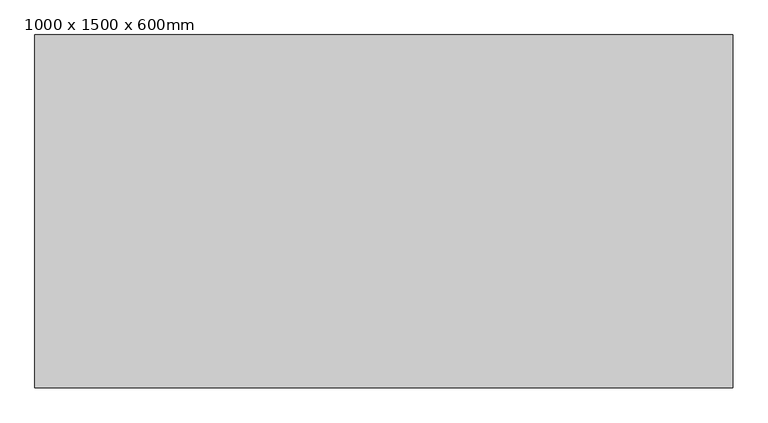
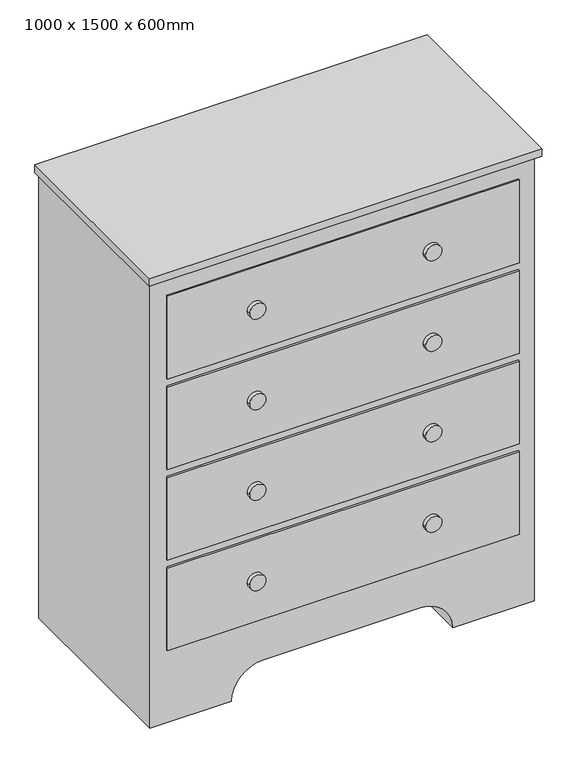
"""IFC4 building model written with IfcOpenShell, lengths in millimetres: furniture geometry, Skrin : 1000 x 1500 x 600mm."""

from ifc_helpers import new_model, si_unit, point, frame, frame_2d, origin, place, context, project, spatial, polyline, circle_curve, trimmed, segment, composite_curve, outline, extrude, source, transform, mapped, element, save


def furniture_1000_x_1500_x_600mm_3ddbdefd(model_context):
    return source(origin(), model_context, "Body", "SweptSolid", [
        extrude(outline(polyline([(343.5067402, -63.1629541), (343.5067402, -682.2129541), (-881.8932598, -682.2129541), (-881.8932598, -63.1629541), (343.5067402, -63.1629541)])), frame((0.0, 0.0, 1474.6), z_axis=(0.0, 0.0, 1.0), x_axis=(1.0, 0.0, 0.0)), (0.0, 0.0, 1.0), 25.4),
        extrude(outline(composite_curve([segment(polyline([(0.0, 330.8067402), (1474.6, 330.8067402), (1474.6, -869.1932598), (0.0, -869.1932598), (0.0, -615.1932598)]), True, "CONTINUOUS"), segment(trimmed(circle_curve(frame_2d((0.0, -513.5932598)), 101.6), [point((0.0, -615.1932598))], [point((101.6, -513.5932598))], True, "CARTESIAN"), True, "CONTINUOUS"), segment(polyline([(101.6, -513.5932598), (101.6, -24.7932598)]), True, "CONTINUOUS"), segment(trimmed(circle_curve(frame_2d((0.0, -24.7932598)), 101.6), [point((101.6, -24.7932598))], [point((0.0, 76.8067402))], True, "CARTESIAN"), True, "CONTINUOUS"), segment(polyline([(0.0, 76.8067402), (0.0, 330.8067402)]), True, "CONTINUOUS")], self_intersect=False)), frame((0.0, -663.1629541, 0.0), z_axis=(0.0, 1.0, 0.0), x_axis=(0.0, 0.0, 1.0)), (0.0, 0.0, 1.0), 600.0),
        extrude(outline(composite_curve([segment(trimmed(circle_curve(frame_2d((1274.4, 5.4067402)), 25.4), [point((1274.4, -19.9932598))], [point((1274.4, 30.8067402))], False, "CARTESIAN"), True, "CONTINUOUS"), segment(trimmed(circle_curve(frame_2d((1274.4, 5.4067402)), 25.4), [point((1274.4, 30.8067402))], [point((1274.4, -19.9932598))], False, "CARTESIAN"), True, "CONTINUOUS")], self_intersect=False)), frame((0.0, -682.2129541, 0.0), z_axis=(0.0, 1.0, 0.0), x_axis=(0.0, 0.0, 1.0)), (0.0, 0.0, 1.0), 12.7),
        extrude(outline(composite_curve([segment(trimmed(circle_curve(frame_2d((975.6, 5.4067402)), 25.4), [point((975.6, -19.9932598))], [point((975.6, 30.8067402))], False, "CARTESIAN"), True, "CONTINUOUS"), segment(trimmed(circle_curve(frame_2d((975.6, 5.4067402)), 25.4), [point((975.6, 30.8067402))], [point((975.6, -19.9932598))], False, "CARTESIAN"), True, "CONTINUOUS")], self_intersect=False)), frame((0.0, -682.2129541, 0.0), z_axis=(0.0, 1.0, 0.0), x_axis=(0.0, 0.0, 1.0)), (0.0, 0.0, 1.0), 12.7),
        extrude(outline(composite_curve([segment(trimmed(circle_curve(frame_2d((676.8, 5.4067402)), 25.4), [point((676.8, -19.9932598))], [point((676.8, 30.8067402))], False, "CARTESIAN"), True, "CONTINUOUS"), segment(trimmed(circle_curve(frame_2d((676.8, 5.4067402)), 25.4), [point((676.8, 30.8067402))], [point((676.8, -19.9932598))], False, "CARTESIAN"), True, "CONTINUOUS")], self_intersect=False)), frame((0.0, -682.2129541, 0.0), z_axis=(0.0, 1.0, 0.0), x_axis=(0.0, 0.0, 1.0)), (0.0, 0.0, 1.0), 12.7),
        extrude(outline(composite_curve([segment(trimmed(circle_curve(frame_2d((378.0, 5.4067402)), 25.4), [point((378.0, -19.9932598))], [point((378.0, 30.8067402))], False, "CARTESIAN"), True, "CONTINUOUS"), segment(trimmed(circle_curve(frame_2d((378.0, 5.4067402)), 25.4), [point((378.0, 30.8067402))], [point((378.0, -19.9932598))], False, "CARTESIAN"), True, "CONTINUOUS")], self_intersect=False)), frame((0.0, -682.2129541, 0.0), z_axis=(0.0, 1.0, 0.0), x_axis=(0.0, 0.0, 1.0)), (0.0, 0.0, 1.0), 12.7),
        extrude(outline(composite_curve([segment(trimmed(circle_curve(frame_2d((378.0, -543.7932598)), 25.4), [point((378.0, -569.1932598))], [point((378.0, -518.3932598))], False, "CARTESIAN"), True, "CONTINUOUS"), segment(trimmed(circle_curve(frame_2d((378.0, -543.7932598)), 25.4), [point((378.0, -518.3932598))], [point((378.0, -569.1932598))], False, "CARTESIAN"), True, "CONTINUOUS")], self_intersect=False)), frame((0.0, -682.2129541, 0.0), z_axis=(0.0, 1.0, 0.0), x_axis=(0.0, 0.0, 1.0)), (0.0, 0.0, 1.0), 12.7),
        extrude(outline(composite_curve([segment(trimmed(circle_curve(frame_2d((676.8, -543.7932598)), 25.4), [point((676.8, -569.1932598))], [point((676.8, -518.3932598))], False, "CARTESIAN"), True, "CONTINUOUS"), segment(trimmed(circle_curve(frame_2d((676.8, -543.7932598)), 25.4), [point((676.8, -518.3932598))], [point((676.8, -569.1932598))], False, "CARTESIAN"), True, "CONTINUOUS")], self_intersect=False)), frame((0.0, -682.2129541, 0.0), z_axis=(0.0, 1.0, 0.0), x_axis=(0.0, 0.0, 1.0)), (0.0, 0.0, 1.0), 12.7),
        extrude(outline(composite_curve([segment(trimmed(circle_curve(frame_2d((975.6, -543.7932598)), 25.4), [point((975.6, -569.1932598))], [point((975.6, -518.3932598))], False, "CARTESIAN"), True, "CONTINUOUS"), segment(trimmed(circle_curve(frame_2d((975.6, -543.7932598)), 25.4), [point((975.6, -518.3932598))], [point((975.6, -569.1932598))], False, "CARTESIAN"), True, "CONTINUOUS")], self_intersect=False)), frame((0.0, -682.2129541, 0.0), z_axis=(0.0, 1.0, 0.0), x_axis=(0.0, 0.0, 1.0)), (0.0, 0.0, 1.0), 12.7),
        extrude(outline(composite_curve([segment(trimmed(circle_curve(frame_2d((1274.4, -543.7932598)), 25.4), [point((1274.4, -569.1932598))], [point((1274.4, -518.3932598))], False, "CARTESIAN"), True, "CONTINUOUS"), segment(trimmed(circle_curve(frame_2d((1274.4, -543.7932598)), 25.4), [point((1274.4, -518.3932598))], [point((1274.4, -569.1932598))], False, "CARTESIAN"), True, "CONTINUOUS")], self_intersect=False)), frame((0.0, -682.2129541, 0.0), z_axis=(0.0, 1.0, 0.0), x_axis=(0.0, 0.0, 1.0)), (0.0, 0.0, 1.0), 12.7),
        extrude(outline(polyline([(280.0067402, -669.5129541), (-818.3932598, -669.5129541), (-818.3932598, -663.1629541), (280.0067402, -663.1629541), (280.0067402, -669.5129541)])), frame((0.0, 0.0, 1137.7), z_axis=(0.0, 0.0, 1.0), x_axis=(1.0, 0.0, 0.0)), (0.0, 0.0, 1.0), 273.4),
        extrude(outline(polyline([(280.0067402, -669.5129541), (-818.3932598, -669.5129541), (-818.3932598, -663.1629541), (280.0067402, -663.1629541), (280.0067402, -669.5129541)])), frame((0.0, 0.0, 838.9), z_axis=(0.0, 0.0, 1.0), x_axis=(1.0, 0.0, 0.0)), (0.0, 0.0, 1.0), 273.4),
        extrude(outline(polyline([(280.0067402, -669.5129541), (-818.3932598, -669.5129541), (-818.3932598, -663.1629541), (280.0067402, -663.1629541), (280.0067402, -669.5129541)])), frame((0.0, 0.0, 540.1), z_axis=(0.0, 0.0, 1.0), x_axis=(1.0, 0.0, 0.0)), (0.0, 0.0, 1.0), 273.4),
        extrude(outline(polyline([(280.0067402, -669.5129541), (-818.3932598, -669.5129541), (-818.3932598, -663.1629541), (280.0067402, -663.1629541), (280.0067402, -669.5129541)])), frame((0.0, 0.0, 241.3), z_axis=(0.0, 0.0, 1.0), x_axis=(1.0, 0.0, 0.0)), (0.0, 0.0, 1.0), 273.4),
    ])


if __name__ == "__main__":
    model = new_model("IFC4")
    model_context = context("Model", 3, world=origin())
    ifc_project = project(units=[si_unit("LENGTHUNIT", "METRE", prefix="MILLI")], contexts=[model_context])
    site = spatial("IfcSite", under=ifc_project)
    building = spatial("IfcBuilding", under=site)
    placement = place(None, origin())
    furniture_1000_x_1500_x_600mm_shape = furniture_1000_x_1500_x_600mm_3ddbdefd(model_context)
    element("IfcFurniture", 1, ObjectType="Skrin : 1000 x 1500 x 600mm", at=placement, inside=building, context=model_context, shape_type="MappedRepresentation", body=[
        mapped(furniture_1000_x_1500_x_600mm_shape, transform((0.0, 0.0, 0.0), x_axis=(1.0, 0.0, 0.0), y_axis=(0.0, 1.0, 0.0), z_axis=(0.0, 0.0, 1.0))),
    ])
    save(model, "model.ifc")
